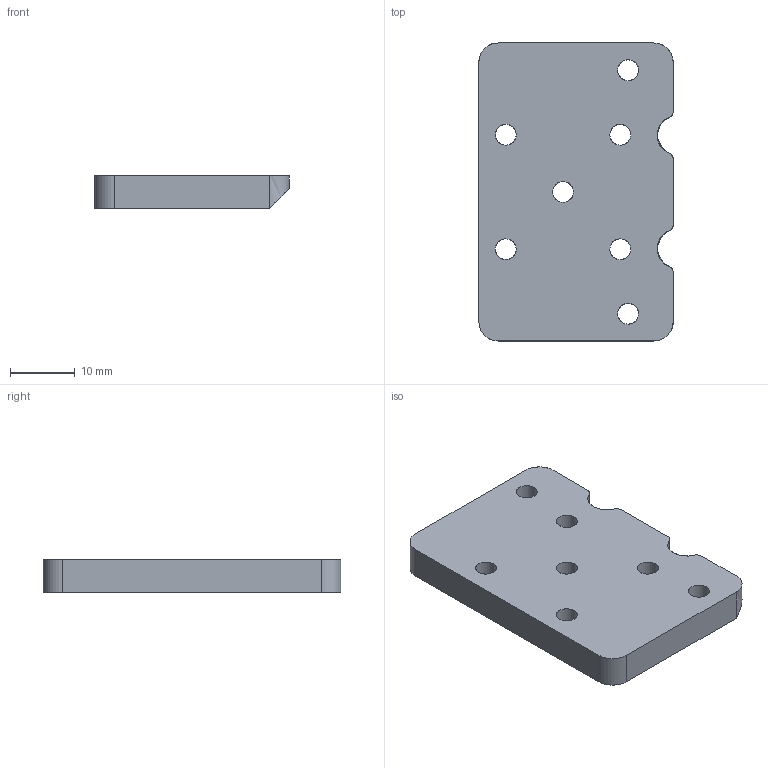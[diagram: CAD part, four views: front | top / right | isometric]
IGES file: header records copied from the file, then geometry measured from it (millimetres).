
Global section: file name: C:\Users\Acarrieri\OneDrive - Datalogic S.p.a\Desktop\PDS\00-M220\MP041935_00_DSD-1125_IGS.igs; native system: NX V1926; preprocessor: SIEMENS PLM Software NX 1946; date: 20221128.120651; units: millimetre
Bounding box: 30 x 46 x 5 mm (x, y, z)
Surface area: 3591.4 mm2 (no closed solid volume)
Topology: 0 solids, 0 shells, 33 faces, 323 edges, 323 vertices
Faces by surface type: bspline 33
